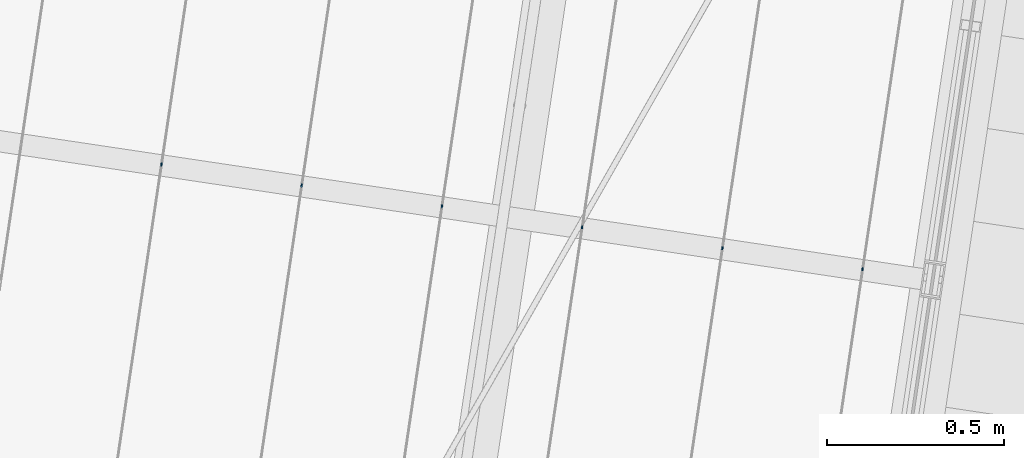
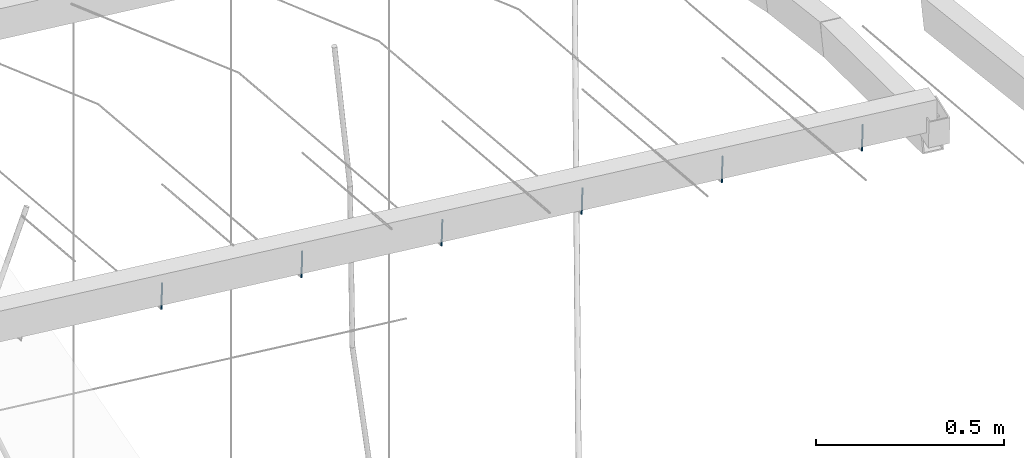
# One storey, part 128 of 142: 6 members, 1 element without a shape of its own.
"""IFC4 building model written with IfcOpenShell, lengths in metres."""

import ifcopenshell
import ifcopenshell.guid

model = None  # the IFC model being written
_history = None  # IfcOwnerHistory: only IFC2X3 demands one
_inside = {}  # id of a spatial element -> (the spatial element, [elements in it])
_under = {}  # id of a project, library or spatial element -> (it, [spatial elements below it])
_declared = {}  # id of a project -> (the project, [libraries it declares])
_typed = {}  # id of a type object -> (the type object, [elements of that type])
_made_of = {}  # id of a material, layer set ... -> (it, [elements and type objects made of it])


def new_model(schema):
    """Start an empty IFC model of exactly this schema.

    Asked for "IFC4X3", IfcOpenShell would pick the latest addendum, in which some entities
    have other attributes; the version numbers below select the first issue.
    IFC2X3 requires an IfcOwnerHistory on every rooted entity: one is made here for all.
    """
    global model, _history
    if schema == "IFC4X3":
        model = ifcopenshell.file(schema_version=(4, 3, 0, 0))
    else:
        model = ifcopenshell.file(schema=schema)
    _inside.clear()
    _under.clear()
    _declared.clear()
    _typed.clear()
    _made_of.clear()
    _history = None
    if model.schema == "IFC2X3":
        org = make("IfcOrganization", Name="unknown")
        user = make(
            "IfcPersonAndOrganization",
            ThePerson=make("IfcPerson", FamilyName="unknown"),
            TheOrganization=org,
        )
        app = make(
            "IfcApplication",
            ApplicationDeveloper=org,
            Version="unknown",
            ApplicationFullName="unknown",
            ApplicationIdentifier="unknown",
        )
        _history = make(
            "IfcOwnerHistory",
            OwningUser=user,
            OwningApplication=app,
            ChangeAction="ADDED",
            CreationDate=0,
        )
    return model


def make(cls, **values):
    """One entity of the class cls with the attributes given. An attribute that is None is left unset."""
    return model.create_entity(
        cls, **{name: value for name, value in values.items() if value is not None}
    )


def rooted(cls, **values):
    """An entity with a GlobalId (a new one), such as an element, a storey or a relation."""
    return make(cls, GlobalId=ifcopenshell.guid.new(), OwnerHistory=_history, **values)


def si_unit(unit_type, name, prefix=None):
    """IfcSIUnit, for example si_unit("LENGTHUNIT", "METRE", prefix="MILLI")."""
    return make("IfcSIUnit", UnitType=unit_type, Prefix=prefix, Name=name)


def assignment(units):
    """IfcUnitAssignment: the units of a project."""
    return None if units is None else make("IfcUnitAssignment", Units=units)


def point(xyz):
    """IfcCartesianPoint."""
    return None if xyz is None else make("IfcCartesianPoint", Coordinates=xyz)


def direction(xyz):
    """IfcDirection."""
    return None if xyz is None else make("IfcDirection", DirectionRatios=xyz)


def frame(location, z_axis=None, x_axis=None):
    """IfcAxis2Placement3D, a coordinate frame: its origin and axes. An axis left out is left unset."""
    return make(
        "IfcAxis2Placement3D",
        Location=point(location),
        Axis=direction(z_axis),
        RefDirection=direction(x_axis),
    )


def origin_with_axes():
    """The frame at (0, 0, 0) with the z axis (0, 0, 1) and the x axis (1, 0, 0) written out."""
    return frame((0.0, 0.0, 0.0), z_axis=(0.0, 0.0, 1.0), x_axis=(1.0, 0.0, 0.0))


def place(relative_to, where):
    """IfcLocalPlacement: puts the frame where relative to a parent placement (None: the world)."""
    return make(
        "IfcLocalPlacement", PlacementRelTo=relative_to, RelativePlacement=where
    )


def context(
    kind, dimensions, precision=None, world=None, true_north=None, identifier=None
):
    """IfcGeometricRepresentationContext, for example the 3D "Model" context."""
    return make(
        "IfcGeometricRepresentationContext",
        ContextIdentifier=identifier,
        ContextType=kind,
        CoordinateSpaceDimension=dimensions,
        Precision=precision,
        WorldCoordinateSystem=world,
        TrueNorth=true_north,
    )


def subcontext(parent, identifier, kind, view, scale=None):
    """IfcGeometricRepresentationSubContext, for example "Body" below "Model"."""
    return make(
        "IfcGeometricRepresentationSubContext",
        ContextIdentifier=identifier,
        ContextType=kind,
        ParentContext=parent,
        TargetScale=scale,
        TargetView=view,
    )


def project(units=None, contexts=None):
    """IfcProject with its units and contexts."""
    return rooted(
        "IfcProject",
        Name="project",
        RepresentationContexts=contexts,
        UnitsInContext=assignment(units),
    )


def spatial(cls, under=None, at=None, **own):
    """A site, building, storey or space (cls), placed at a placement, below another one or the project."""
    s = rooted(cls, ObjectPlacement=at, **own)
    if under is not None:
        _under.setdefault(under.id(), (under, []))[1].append(s)
    return s


def profile(cls, at=None, kind="AREA", **sizes):
    """A parametric profile (cls). Its sizes go by their IFC names, for example OverallWidth=200.0."""
    return make(cls, ProfileType=kind, Position=at, **sizes)


def circle(**sizes):
    """IfcCircleProfileDef."""
    return profile("IfcCircleProfileDef", **sizes)


def extrude(swept, where, along, depth):
    """IfcExtrudedAreaSolid: the profile swept, set in the frame where, extruded along a direction by depth."""
    return make(
        "IfcExtrudedAreaSolid",
        SweptArea=swept,
        Position=where,
        ExtrudedDirection=direction(along),
        Depth=depth,
    )


def shape(context_of_items, identifier, shape_type, items):
    """IfcShapeRepresentation: the items that make up one representation, for example the "Body"."""
    return make(
        "IfcShapeRepresentation",
        ContextOfItems=context_of_items,
        RepresentationIdentifier=identifier,
        RepresentationType=shape_type,
        Items=items,
    )


def material(Name=None, Category=None):
    """IfcMaterial."""
    return make("IfcMaterial", Name=Name, Category=Category)


def material_profile(
    of_material, cross_section, Name=None, Category=None, Priority=None
):
    """IfcMaterialProfile: a cross section and its material."""
    return make(
        "IfcMaterialProfile",
        Name=Name,
        Material=of_material,
        Profile=cross_section,
        Priority=Priority,
        Category=Category,
    )


def profile_set(profiles, Name=None, composite=None):
    """IfcMaterialProfileSet."""
    return make(
        "IfcMaterialProfileSet",
        Name=Name,
        MaterialProfiles=profiles,
        CompositeProfile=composite,
    )


def profile_usage(for_profile_set, cardinal=None, extent=None):
    """IfcMaterialProfileSetUsage: how a profile set lies along its element."""
    return make(
        "IfcMaterialProfileSetUsage",
        ForProfileSet=for_profile_set,
        CardinalPoint=cardinal,
        ReferenceExtent=extent,
    )


def made_of(thing, what):
    """Note that an element or type object is made of a material, layer set ...; save() writes the relation."""
    if what is not None:
        _made_of.setdefault(what.id(), (what, []))[1].append(thing)
    return thing


def type_object(cls, material=None, **own):
    """A type object (cls), such as IfcWallType, which elements share."""
    return made_of(rooted(cls, **own), material)


def element(
    cls,
    number,
    at=None,
    inside=None,
    cuts=None,
    type_object=None,
    material=None,
    context=None,
    identifier="Body",
    shape_type=None,
    held_by="IfcProductDefinitionShape",
    body=None,
    shapes=None,
    **own,
):
    """One element of the class cls, such as IfcWall. Its Tag is "e" and its number.

    at: its placement. inside: the storey or other place that contains it. cuts: it is an
    opening in that element (IfcRelVoidsElement). A single representation is given by context,
    identifier, shape_type and body (its items); several are given by shapes. held_by: the class
    of the entity that holds the representations. save() writes the other relations.
    """
    e = rooted(cls, Tag="e%d" % number, ObjectPlacement=at, **own)
    if body is not None:
        shapes = [shape(context, identifier, shape_type, body)]
    if shapes is not None:
        e.Representation = make(held_by, Representations=shapes)
    if inside is not None:
        _inside.setdefault(inside.id(), (inside, []))[1].append(e)
    if cuts is not None:
        rooted(
            "IfcRelVoidsElement", RelatingBuildingElement=cuts, RelatedOpeningElement=e
        )
    if type_object is not None:
        _typed.setdefault(type_object.id(), (type_object, []))[1].append(e)
    return made_of(e, material)


def aggregate(whole, parts):
    """IfcRelAggregates: a whole, such as a stair, and the parts it consists of."""
    return rooted("IfcRelAggregates", RelatingObject=whole, RelatedObjects=parts)


def save(model, path):
    """Write the relations noted so far, then the file.

    IfcRelAggregates (storeys below a building ...), IfcRelContainedInSpatialStructure (elements
    in a storey), IfcRelDefinesByType, IfcRelAssociatesMaterial and IfcRelDeclares: one each for
    every whole, place, type object, material and project.
    """
    for whole, parts in _under.values():
        aggregate(whole, parts)
    for where, things in _inside.values():
        rooted(
            "IfcRelContainedInSpatialStructure",
            RelatedElements=things,
            RelatingStructure=where,
        )
    for kind, things in _typed.values():
        rooted("IfcRelDefinesByType", RelatedObjects=things, RelatingType=kind)
    for what, things in _made_of.values():
        rooted("IfcRelAssociatesMaterial", RelatedObjects=things, RelatingMaterial=what)
    for by, libraries in _declared.values():
        rooted("IfcRelDeclares", RelatingContext=by, RelatedDefinitions=libraries)
    model.write(path)


model = new_model("IFC4")

# Units and contexts
model_context = context("Model", 3, precision=1e-05, world=origin_with_axes(), true_north=direction((0.0, 1.0)))
body_context = subcontext(model_context, "Body", "Model", "MODEL_VIEW")
ifc_project = project(units=[si_unit("VOLUMEUNIT", "CUBIC_METRE"), si_unit("LENGTHUNIT", "METRE"), si_unit("AREAUNIT", "SQUARE_METRE")], contexts=[model_context])

# Site, building, storey
site_placement = place(None, origin_with_axes())
site = spatial("IfcSite", under=ifc_project, at=site_placement, Name="Lares · Rua das Mercês · artigo 4771")
building_placement = place(site_placement, frame((12.0, 10.2, 13.9), z_axis=(0.0, 0.0, 1.0), x_axis=(0.989015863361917, -0.147809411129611, 0.0)))
building = spatial("IfcBuilding", under=site, at=building_placement, Name="Casa Sobreposta")
storey_placement = place(building_placement, origin_with_axes())
storey = spatial("IfcBuildingStorey", under=building, at=storey_placement, Name="00 · Habitação e estacionamento", Elevation=13.9)

# Assembly, members
assembly_placement = place(storey_placement, origin_with_axes())
assembly = element("IfcElementAssembly", 1, at=assembly_placement, inside=storey, Name="Pérgola · prolongamento da estufa 6 m", ObjectType="PERGOLA_GREENHOUSE_EXTENSION", PredefinedType="USERDEFINED")
ifc_material = material(Name="Aço galvanizado / Stahl verzinkt", Category="steel")
ifc_material_profile = material_profile(ifc_material, circle(Radius=0.002))
ifc_profile_set = profile_set([ifc_material_profile], Name="D0.004")
ifc_profile_usage_1 = profile_usage(ifc_profile_set)
member_type = type_object("IfcMemberType", Name="D0.004 / galvanized", PredefinedType="NOTDEFINED", material=ifc_profile_set)
member_1_placement = place(assembly_placement, frame((-2.2, 3.68002089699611, 7.30067689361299), z_axis=(0.0, 0.0651953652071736, -0.997872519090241), x_axis=(1.0, 0.0, 0.0)))
member_1 = element("IfcMember", 2, at=member_1_placement, type_object=member_type, material=ifc_profile_usage_1, Name="Pérgola · fio para trepadeiras", context=body_context, shape_type="SweptSolid", body=[
    extrude(circle(Radius=0.002), origin_with_axes(), (0.0, 0.0, 1.0), 0.0875840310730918),
])
ifc_profile_usage_2 = profile_usage(ifc_profile_set)
member_2_placement = place(assembly_placement, frame((-1.8, 3.68002089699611, 7.30067689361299), z_axis=(0.0, 0.0651953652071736, -0.997872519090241), x_axis=(1.0, 0.0, 0.0)))
member_2 = element("IfcMember", 3, at=member_2_placement, type_object=member_type, material=ifc_profile_usage_2, Name="Pérgola · fio para trepadeiras", context=body_context, shape_type="SweptSolid", body=[
    extrude(circle(Radius=0.002), origin_with_axes(), (0.0, 0.0, 1.0), 0.0875840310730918),
])
ifc_profile_usage_3 = profile_usage(ifc_profile_set)
member_3_placement = place(assembly_placement, frame((-1.4, 3.68002089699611, 7.30067689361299), z_axis=(0.0, 0.0651953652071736, -0.997872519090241), x_axis=(1.0, 0.0, 0.0)))
member_3 = element("IfcMember", 4, at=member_3_placement, type_object=member_type, material=ifc_profile_usage_3, Name="Pérgola · fio para trepadeiras", context=body_context, shape_type="SweptSolid", body=[
    extrude(circle(Radius=0.002), origin_with_axes(), (0.0, 0.0, 1.0), 0.0875840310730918),
])
ifc_profile_usage_4 = profile_usage(ifc_profile_set)
member_4_placement = place(assembly_placement, frame((-0.999999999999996, 3.68002089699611, 7.30067689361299), z_axis=(0.0, 0.0651953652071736, -0.997872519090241), x_axis=(1.0, 0.0, 0.0)))
member_4 = element("IfcMember", 5, at=member_4_placement, type_object=member_type, material=ifc_profile_usage_4, Name="Pérgola · fio para trepadeiras", context=body_context, shape_type="SweptSolid", body=[
    extrude(circle(Radius=0.002), origin_with_axes(), (0.0, 0.0, 1.0), 0.0875840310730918),
])
ifc_profile_usage_5 = profile_usage(ifc_profile_set)
member_5_placement = place(assembly_placement, frame((-0.599999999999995, 3.68002089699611, 7.30067689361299), z_axis=(0.0, 0.0651953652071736, -0.997872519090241), x_axis=(1.0, 0.0, 0.0)))
member_5 = element("IfcMember", 6, at=member_5_placement, type_object=member_type, material=ifc_profile_usage_5, Name="Pérgola · fio para trepadeiras", context=body_context, shape_type="SweptSolid", body=[
    extrude(circle(Radius=0.002), origin_with_axes(), (0.0, 0.0, 1.0), 0.0875840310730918),
])
ifc_profile_usage_6 = profile_usage(ifc_profile_set)
member_6_placement = place(assembly_placement, frame((-0.199999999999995, 3.68002089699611, 7.30067689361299), z_axis=(0.0, 0.0651953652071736, -0.997872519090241), x_axis=(1.0, 0.0, 0.0)))
member_6 = element("IfcMember", 7, at=member_6_placement, type_object=member_type, material=ifc_profile_usage_6, Name="Pérgola · fio para trepadeiras", context=body_context, shape_type="SweptSolid", body=[
    extrude(circle(Radius=0.002), origin_with_axes(), (0.0, 0.0, 1.0), 0.0875840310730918),
])
aggregate(assembly, [member_1, member_2, member_3, member_4, member_5, member_6])

save(model, "model.ifc")
